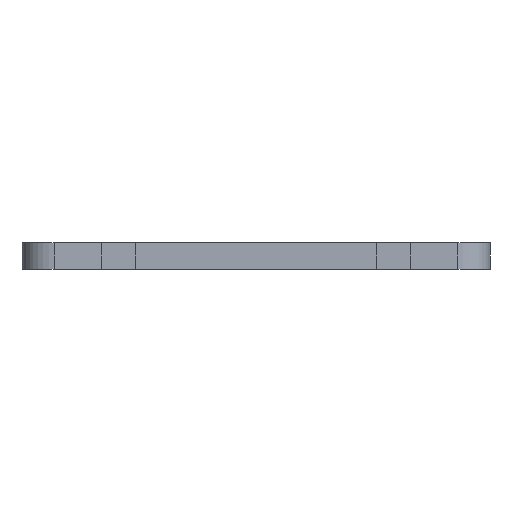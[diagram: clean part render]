
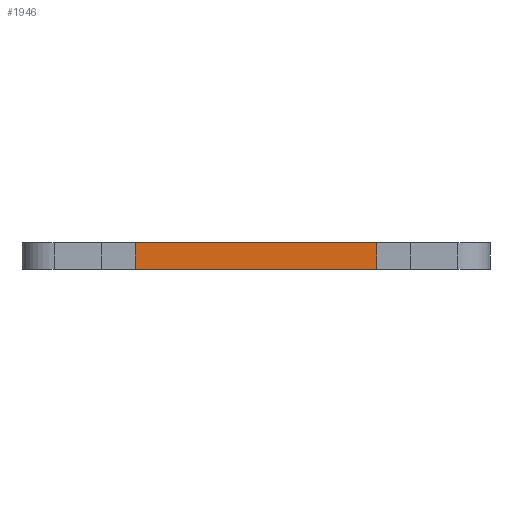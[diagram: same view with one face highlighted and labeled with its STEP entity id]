
A CAD part, front view. The second image highlights one B-rep face of the part: STEP entity #1946.
In plain terms, the highlighted planar face has unit normal (0, -1, 0).
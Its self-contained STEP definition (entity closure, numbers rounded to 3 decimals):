
#44 = PLANE('',#45);
#45 = AXIS2_PLACEMENT_3D('',#46,#47,#48);
#46 = CARTESIAN_POINT('',(-13.1,-8.1,13.3));
#47 = DIRECTION('',(0.,0.,1.));
#48 = DIRECTION('',(1.,0.,0.));
#100 = PLANE('',#101);
#101 = AXIS2_PLACEMENT_3D('',#102,#103,#104);
#102 = CARTESIAN_POINT('',(-13.1,-8.1,11.8));
#103 = DIRECTION('',(0.,0.,1.));
#104 = DIRECTION('',(1.,0.,0.));
#245 = VERTEX_POINT('',#246);
#246 = CARTESIAN_POINT('',(-6.75,-8.1,13.3));
#259 = PLANE('',#260);
#260 = AXIS2_PLACEMENT_3D('',#261,#262,#263);
#261 = CARTESIAN_POINT('',(-6.75,-10.2,11.7));
#262 = DIRECTION('',(1.,0.,0.));
#263 = DIRECTION('',(0.,0.,1.));
#270 = EDGE_CURVE('',#245,#271,#273,.T.);
#271 = VERTEX_POINT('',#272);
#272 = CARTESIAN_POINT('',(6.75,-8.1,13.3));
#273 = SURFACE_CURVE('',#274,(#278,#285),.PCURVE_S1.);
#274 = LINE('',#275,#276);
#275 = CARTESIAN_POINT('',(-13.1,-8.1,13.3));
#276 = VECTOR('',#277,1.);
#277 = DIRECTION('',(1.,0.,0.));
#278 = PCURVE('',#44,#279);
#279 = DEFINITIONAL_REPRESENTATION('',(#280),#284);
#280 = LINE('',#281,#282);
#281 = CARTESIAN_POINT('',(0.,0.));
#282 = VECTOR('',#283,1.);
#283 = DIRECTION('',(1.,0.));
#284 = ( GEOMETRIC_REPRESENTATION_CONTEXT(2) 
PARAMETRIC_REPRESENTATION_CONTEXT() REPRESENTATION_CONTEXT('2D SPACE',''
  ) );
#285 = PCURVE('',#286,#291);
#286 = PLANE('',#287);
#287 = AXIS2_PLACEMENT_3D('',#288,#289,#290);
#288 = CARTESIAN_POINT('',(-13.1,-8.1,11.8));
#289 = DIRECTION('',(0.,1.,0.));
#290 = DIRECTION('',(0.,0.,1.));
#291 = DEFINITIONAL_REPRESENTATION('',(#292),#296);
#292 = LINE('',#293,#294);
#293 = CARTESIAN_POINT('',(1.5,0.));
#294 = VECTOR('',#295,1.);
#295 = DIRECTION('',(0.,1.));
#296 = ( GEOMETRIC_REPRESENTATION_CONTEXT(2) 
PARAMETRIC_REPRESENTATION_CONTEXT() REPRESENTATION_CONTEXT('2D SPACE',''
  ) );
#313 = PLANE('',#314);
#314 = AXIS2_PLACEMENT_3D('',#315,#316,#317);
#315 = CARTESIAN_POINT('',(6.75,-10.2,11.7));
#316 = DIRECTION('',(1.,0.,0.));
#317 = DIRECTION('',(0.,0.,1.));
#1007 = VERTEX_POINT('',#1008);
#1008 = CARTESIAN_POINT('',(-6.75,-8.1,11.8));
#1027 = EDGE_CURVE('',#1007,#1028,#1030,.T.);
#1028 = VERTEX_POINT('',#1029);
#1029 = CARTESIAN_POINT('',(6.75,-8.1,11.8));
#1030 = SURFACE_CURVE('',#1031,(#1035,#1042),.PCURVE_S1.);
#1031 = LINE('',#1032,#1033);
#1032 = CARTESIAN_POINT('',(-13.1,-8.1,11.8));
#1033 = VECTOR('',#1034,1.);
#1034 = DIRECTION('',(1.,0.,0.));
#1035 = PCURVE('',#100,#1036);
#1036 = DEFINITIONAL_REPRESENTATION('',(#1037),#1041);
#1037 = LINE('',#1038,#1039);
#1038 = CARTESIAN_POINT('',(0.,0.));
#1039 = VECTOR('',#1040,1.);
#1040 = DIRECTION('',(1.,0.));
#1041 = ( GEOMETRIC_REPRESENTATION_CONTEXT(2) 
PARAMETRIC_REPRESENTATION_CONTEXT() REPRESENTATION_CONTEXT('2D SPACE',''
  ) );
#1042 = PCURVE('',#286,#1043);
#1043 = DEFINITIONAL_REPRESENTATION('',(#1044),#1048);
#1044 = LINE('',#1045,#1046);
#1045 = CARTESIAN_POINT('',(0.,0.));
#1046 = VECTOR('',#1047,1.);
#1047 = DIRECTION('',(0.,1.));
#1048 = ( GEOMETRIC_REPRESENTATION_CONTEXT(2) 
PARAMETRIC_REPRESENTATION_CONTEXT() REPRESENTATION_CONTEXT('2D SPACE',''
  ) );
#1927 = EDGE_CURVE('',#271,#1028,#1928,.T.);
#1928 = SURFACE_CURVE('',#1929,(#1933,#1939),.PCURVE_S1.);
#1929 = LINE('',#1930,#1931);
#1930 = CARTESIAN_POINT('',(6.75,-8.1,11.75));
#1931 = VECTOR('',#1932,1.);
#1932 = DIRECTION('',(0.,0.,-1.));
#1933 = PCURVE('',#313,#1934);
#1934 = DEFINITIONAL_REPRESENTATION('',(#1935),#1938);
#1935 = B_SPLINE_CURVE_WITH_KNOTS('',1,(#1936,#1937),.UNSPECIFIED.,.F.,
  .F.,(2,2),(-1.55,-0.05),.PIECEWISE_BEZIER_KNOTS.);
#1936 = CARTESIAN_POINT('',(1.6,-2.1));
#1937 = CARTESIAN_POINT('',(0.1,-2.1));
#1938 = ( GEOMETRIC_REPRESENTATION_CONTEXT(2) 
PARAMETRIC_REPRESENTATION_CONTEXT() REPRESENTATION_CONTEXT('2D SPACE',''
  ) );
#1939 = PCURVE('',#286,#1940);
#1940 = DEFINITIONAL_REPRESENTATION('',(#1941),#1944);
#1941 = B_SPLINE_CURVE_WITH_KNOTS('',1,(#1942,#1943),.UNSPECIFIED.,.F.,
  .F.,(2,2),(-1.55,-0.05),.PIECEWISE_BEZIER_KNOTS.);
#1942 = CARTESIAN_POINT('',(1.5,19.85));
#1943 = CARTESIAN_POINT('',(0.,19.85));
#1944 = ( GEOMETRIC_REPRESENTATION_CONTEXT(2) 
PARAMETRIC_REPRESENTATION_CONTEXT() REPRESENTATION_CONTEXT('2D SPACE',''
  ) );
#1946 = ADVANCED_FACE('',(#1947),#286,.F.);
#1947 = FACE_BOUND('',#1948,.F.);
#1948 = EDGE_LOOP('',(#1949,#1950,#1969,#1970));
#1949 = ORIENTED_EDGE('',*,*,#1027,.F.);
#1950 = ORIENTED_EDGE('',*,*,#1951,.F.);
#1951 = EDGE_CURVE('',#245,#1007,#1952,.T.);
#1952 = SURFACE_CURVE('',#1953,(#1957,#1963),.PCURVE_S1.);
#1953 = LINE('',#1954,#1955);
#1954 = CARTESIAN_POINT('',(-6.75,-8.1,11.75));
#1955 = VECTOR('',#1956,1.);
#1956 = DIRECTION('',(0.,0.,-1.));
#1957 = PCURVE('',#286,#1958);
#1958 = DEFINITIONAL_REPRESENTATION('',(#1959),#1962);
#1959 = B_SPLINE_CURVE_WITH_KNOTS('',1,(#1960,#1961),.UNSPECIFIED.,.F.,
  .F.,(2,2),(-1.55,-0.05),.PIECEWISE_BEZIER_KNOTS.);
#1960 = CARTESIAN_POINT('',(1.5,6.35));
#1961 = CARTESIAN_POINT('',(0.,6.35));
#1962 = ( GEOMETRIC_REPRESENTATION_CONTEXT(2) 
PARAMETRIC_REPRESENTATION_CONTEXT() REPRESENTATION_CONTEXT('2D SPACE',''
  ) );
#1963 = PCURVE('',#259,#1964);
#1964 = DEFINITIONAL_REPRESENTATION('',(#1965),#1968);
#1965 = B_SPLINE_CURVE_WITH_KNOTS('',1,(#1966,#1967),.UNSPECIFIED.,.F.,
  .F.,(2,2),(-1.55,-0.05),.PIECEWISE_BEZIER_KNOTS.);
#1966 = CARTESIAN_POINT('',(1.6,-2.1));
#1967 = CARTESIAN_POINT('',(0.1,-2.1));
#1968 = ( GEOMETRIC_REPRESENTATION_CONTEXT(2) 
PARAMETRIC_REPRESENTATION_CONTEXT() REPRESENTATION_CONTEXT('2D SPACE',''
  ) );
#1969 = ORIENTED_EDGE('',*,*,#270,.T.);
#1970 = ORIENTED_EDGE('',*,*,#1927,.T.);
